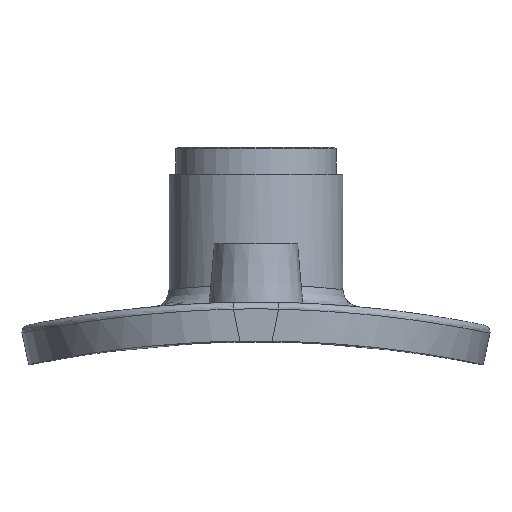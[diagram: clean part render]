
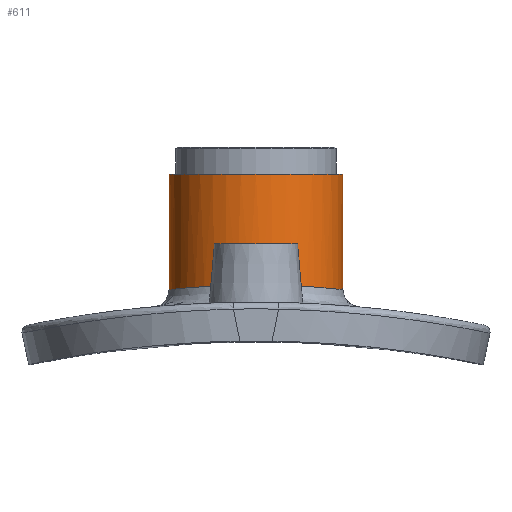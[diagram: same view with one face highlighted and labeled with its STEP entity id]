
A CAD part, top view. The second image highlights one B-rep face of the part: STEP entity #611.
In plain terms, the highlighted cylindrical face has radius 15.676 mm (diameter 31.352 mm), a full revolution.
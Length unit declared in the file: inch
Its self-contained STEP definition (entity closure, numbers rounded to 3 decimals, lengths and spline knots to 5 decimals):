
#25=B_SPLINE_CURVE_WITH_KNOTS('',3,(#1092,#1093,#1094,#1095,#1096,#1097,
#1098),.UNSPECIFIED.,.F.,.F.,(4,1,1,1,4),(-9.45173,-8.77661,
-8.10148,-7.20132,-7.08879),.UNSPECIFIED.);
#26=B_SPLINE_CURVE_WITH_KNOTS('',3,(#1099,#1100,#1101,#1102,#1103,#1104,
#1105,#1106,#1107,#1108,#1109,#1110,#1111,#1112,#1113,#1114),
 .UNSPECIFIED.,.F.,.F.,(4,1,1,1,1,1,1,1,1,1,1,1,1,4),(-7.08879,
-6.97628,-6.75124,-5.85107,-5.40099,
-4.50082,-4.27578,-4.05074,-3.60066,
-2.70049,-2.02537,-1.35025,-0.67512,
0.),.UNSPECIFIED.);
#66=LINE('',#1199,#94);
#67=LINE('',#1201,#95);
#94=VECTOR('',#781,0.61717);
#95=VECTOR('',#782,0.61717);
#120=CYLINDRICAL_SURFACE('',#679,0.61717);
#142=FACE_OUTER_BOUND('',#188,.T.);
#188=EDGE_LOOP('',(#449,#450,#451,#452,#453,#454,#455,#456));
#235=CIRCLE('',#680,0.61717);
#236=CIRCLE('',#681,0.61717);
#272=VERTEX_POINT('',#1069);
#274=VERTEX_POINT('',#1091);
#285=VERTEX_POINT('',#1195);
#286=VERTEX_POINT('',#1196);
#287=VERTEX_POINT('',#1200);
#336=EDGE_CURVE('',#272,#274,#25,.T.);
#337=EDGE_CURVE('',#274,#272,#26,.T.);
#348=EDGE_CURVE('',#285,#286,#235,.T.);
#349=EDGE_CURVE('',#286,#285,#236,.T.);
#350=EDGE_CURVE('',#286,#274,#66,.T.);
#351=EDGE_CURVE('',#287,#274,#67,.T.);
#449=ORIENTED_EDGE('',*,*,#348,.F.);
#450=ORIENTED_EDGE('',*,*,#349,.F.);
#451=ORIENTED_EDGE('',*,*,#350,.T.);
#452=ORIENTED_EDGE('',*,*,#351,.F.);
#453=ORIENTED_EDGE('',*,*,#351,.T.);
#454=ORIENTED_EDGE('',*,*,#336,.F.);
#455=ORIENTED_EDGE('',*,*,#337,.F.);
#456=ORIENTED_EDGE('',*,*,#350,.F.);
#611=ADVANCED_FACE('',(#142),#120,.T.);
#679=AXIS2_PLACEMENT_3D('',#1194,#775,#776);
#680=AXIS2_PLACEMENT_3D('',#1197,#777,#778);
#681=AXIS2_PLACEMENT_3D('',#1198,#779,#780);
#775=DIRECTION('center_axis',(0.,1.,0.));
#776=DIRECTION('ref_axis',(0.,0.,1.));
#777=DIRECTION('center_axis',(0.,1.,0.));
#778=DIRECTION('ref_axis',(1.,0.,0.));
#779=DIRECTION('center_axis',(0.,1.,0.));
#780=DIRECTION('ref_axis',(1.,0.,0.));
#781=DIRECTION('',(0.,-1.,0.));
#782=DIRECTION('',(0.,1.,0.));
#1069=CARTESIAN_POINT('',(-0.61717,8.33258,0.));
#1091=CARTESIAN_POINT('',(0.,8.36557,-0.61717));
#1092=CARTESIAN_POINT('Ctrl Pts',(-0.61717,8.33258,0.));
#1093=CARTESIAN_POINT('Ctrl Pts',(-0.61717,8.33258,-0.09237));
#1094=CARTESIAN_POINT('Ctrl Pts',(-0.57493,8.33726,-0.27687));
#1095=CARTESIAN_POINT('Ctrl Pts',(-0.37841,8.35519,-0.52391));
#1096=CARTESIAN_POINT('Ctrl Pts',(-0.15399,8.3651,-0.61224));
#1097=CARTESIAN_POINT('Ctrl Pts',(-0.01541,8.3656,-0.61726));
#1098=CARTESIAN_POINT('Ctrl Pts',(0.,8.36559,
-0.61724));
#1099=CARTESIAN_POINT('Ctrl Pts',(0.,8.36559,
-0.61724));
#1100=CARTESIAN_POINT('Ctrl Pts',(0.0154,8.36558,-0.61722));
#1101=CARTESIAN_POINT('Ctrl Pts',(0.06161,8.36538,-0.61544));
#1102=CARTESIAN_POINT('Ctrl Pts',(0.22971,8.36277,-0.5905));
#1103=CARTESIAN_POINT('Ctrl Pts',(0.42411,8.35109,-0.47765));
#1104=CARTESIAN_POINT('Ctrl Pts',(0.59964,8.33482,-0.22043));
#1105=CARTESIAN_POINT('Ctrl Pts',(0.63355,8.33076,0.00198));
#1106=CARTESIAN_POINT('Ctrl Pts',(0.59189,8.33527,0.18269));
#1107=CARTESIAN_POINT('Ctrl Pts',(0.54682,8.33974,0.2975));
#1108=CARTESIAN_POINT('Ctrl Pts',(0.42441,8.35109,0.4779));
#1109=CARTESIAN_POINT('Ctrl Pts',(0.17395,8.36612,0.62253));
#1110=CARTESIAN_POINT('Ctrl Pts',(-0.14222,8.36605,0.62212));
#1111=CARTESIAN_POINT('Ctrl Pts',(-0.39795,8.35332,0.49906));
#1112=CARTESIAN_POINT('Ctrl Pts',(-0.57501,8.33731,0.277));
#1113=CARTESIAN_POINT('Ctrl Pts',(-0.61717,8.33258,0.09237));
#1114=CARTESIAN_POINT('Ctrl Pts',(-0.61717,8.33258,0.));
#1194=CARTESIAN_POINT('Origin',(0.,8.55797,0.));
#1195=CARTESIAN_POINT('',(0.,9.15137,0.61717));
#1196=CARTESIAN_POINT('',(0.,9.15137,-0.61717));
#1197=CARTESIAN_POINT('Origin',(0.,9.15137,0.));
#1198=CARTESIAN_POINT('Origin',(0.,9.15137,0.));
#1199=CARTESIAN_POINT('',(0.,8.55797,-0.61717));
#1200=CARTESIAN_POINT('',(0.,8.33134,-0.61717));
#1201=CARTESIAN_POINT('',(0.,8.55797,-0.61717));
